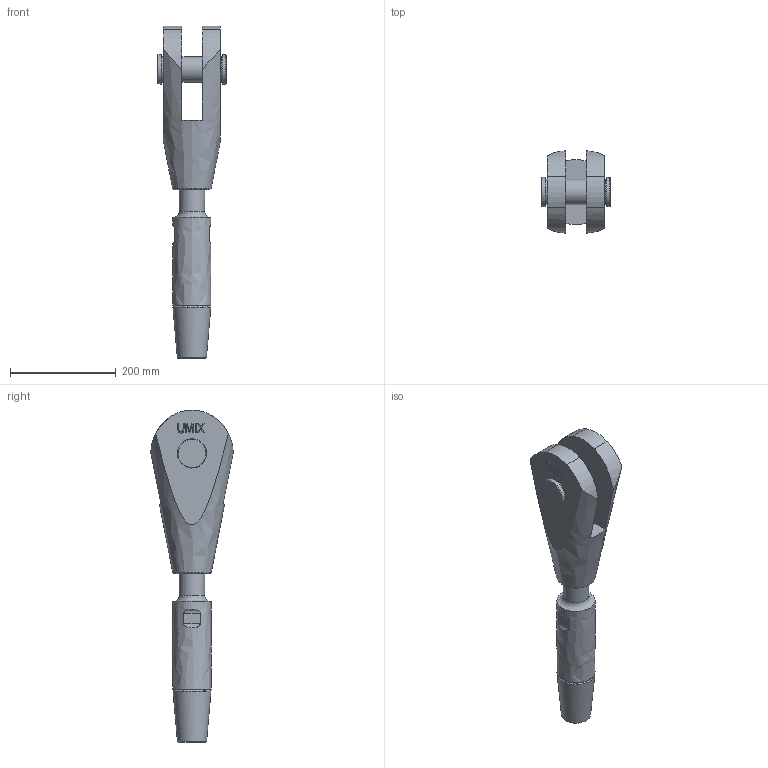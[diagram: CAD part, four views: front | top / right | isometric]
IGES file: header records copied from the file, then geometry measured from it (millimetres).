
Global section: file name: 520-048-GAK-ADA; native system: Autodesk Inventor 2016; preprocessor: unknown; author: Administrator; date: 20200703.131008; units: centimetre
Bounding box: 130.44 x 155.43 x 626.5 mm (x, y, z)
Volume: 3486572.6 mm3; surface area: 274548.1 mm2
Topology: 2 solids, 4 shells, 197 faces, 522 edges, 351 vertices
Faces by surface type: bspline 197
